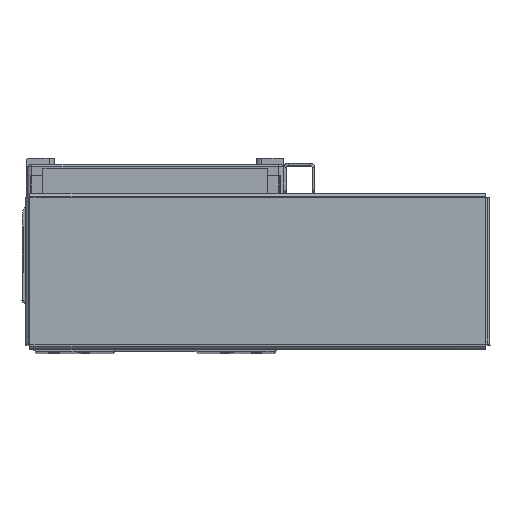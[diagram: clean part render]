
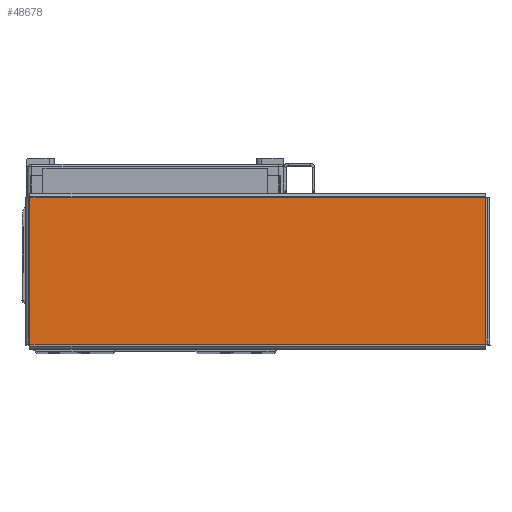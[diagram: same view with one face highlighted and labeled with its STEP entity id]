
A CAD part, top view. The second image highlights one B-rep face of the part: STEP entity #48678.
In plain terms, the highlighted planar face has unit normal (0, 0, 1) as drawn and (0, -1, 0) by its records, which use the part's own axes.
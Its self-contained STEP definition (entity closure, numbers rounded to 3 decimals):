
#2032 = DIRECTION ( 'NONE',  ( 0., 0., -1. ) ) ;
#2043 = CARTESIAN_POINT ( 'NONE',  ( -92.263, -1., 29.793 ) ) ;
#8812 = FACE_OUTER_BOUND ( 'NONE', #35757, .T. ) ;
#11338 = DIRECTION ( 'NONE',  ( 0., 1., 0. ) ) ;
#11372 = DIRECTION ( 'NONE',  ( 0., 0., 1. ) ) ;
#11379 = PLANE ( 'NONE',  #57727 ) ;
#11382 = CARTESIAN_POINT ( 'NONE',  ( 0., -1., 0. ) ) ;
#22112 = CARTESIAN_POINT ( 'NONE',  ( 92.263, -1., -29.793 ) ) ;
#22166 = CARTESIAN_POINT ( 'NONE',  ( -92.293, -1., -29.763 ) ) ;
#22182 = DIRECTION ( 'NONE',  ( 0., 0., 1. ) ) ;
#22192 = DIRECTION ( 'NONE',  ( 1., 0., 0. ) ) ;
#33184 = EDGE_CURVE ( 'NONE', #58216, #58201, #53179, .T. ) ;
#33214 = EDGE_CURVE ( 'NONE', #58279, #58215, #53138, .T. ) ;
#33223 = EDGE_CURVE ( 'NONE', #58201, #58279, #53253, .T. ) ;
#35757 = EDGE_LOOP ( 'NONE', ( #54459, #54435, #54492, #54496 ) ) ;
#40302 = LINE ( 'NONE', #41358, #40303 ) ;
#40303 = VECTOR ( 'NONE', #41321, 1000. ) ;
#41321 = DIRECTION ( 'NONE',  ( -1., 0., 0. ) ) ;
#41358 = CARTESIAN_POINT ( 'NONE',  ( 92.293, -1., 29.763 ) ) ;
#41369 = CARTESIAN_POINT ( 'NONE',  ( -92.263, -1., -29.763 ) ) ;
#41375 = CARTESIAN_POINT ( 'NONE',  ( 92.263, -1., 29.763 ) ) ;
#41377 = CARTESIAN_POINT ( 'NONE',  ( -92.263, -1., 29.763 ) ) ;
#41551 = CARTESIAN_POINT ( 'NONE',  ( 92.263, -1., -29.763 ) ) ;
#48678 = ADVANCED_FACE ( 'NONE', ( #8812 ), #11379, .F. ) ;
#53004 = EDGE_CURVE ( 'NONE', #58215, #58216, #40302, .T. ) ;
#53138 = LINE ( 'NONE', #22112, #53151 ) ;
#53151 = VECTOR ( 'NONE', #22182, 1000. ) ;
#53166 = VECTOR ( 'NONE', #2032, 1000. ) ;
#53179 = LINE ( 'NONE', #2043, #53166 ) ;
#53201 = VECTOR ( 'NONE', #22192, 1000. ) ;
#53253 = LINE ( 'NONE', #22166, #53201 ) ;
#54435 = ORIENTED_EDGE ( 'NONE', *, *, #33214, .T. ) ;
#54459 = ORIENTED_EDGE ( 'NONE', *, *, #33223, .T. ) ;
#54492 = ORIENTED_EDGE ( 'NONE', *, *, #53004, .T. ) ;
#54496 = ORIENTED_EDGE ( 'NONE', *, *, #33184, .T. ) ;
#57727 = AXIS2_PLACEMENT_3D ( 'NONE', #11382, #11338, #11372 ) ;
#58201 = VERTEX_POINT ( 'NONE', #41369 ) ;
#58215 = VERTEX_POINT ( 'NONE', #41375 ) ;
#58216 = VERTEX_POINT ( 'NONE', #41377 ) ;
#58279 = VERTEX_POINT ( 'NONE', #41551 ) ;
